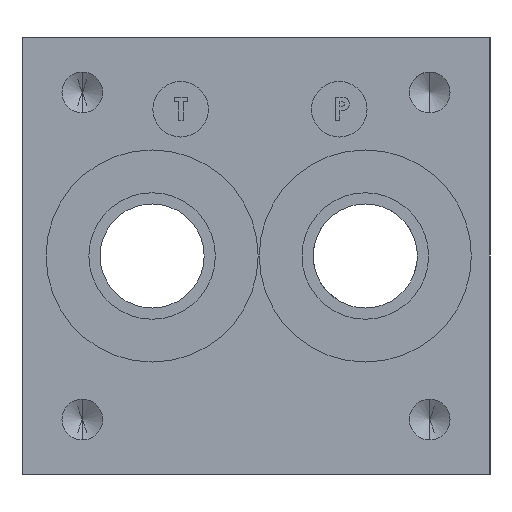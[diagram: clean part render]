
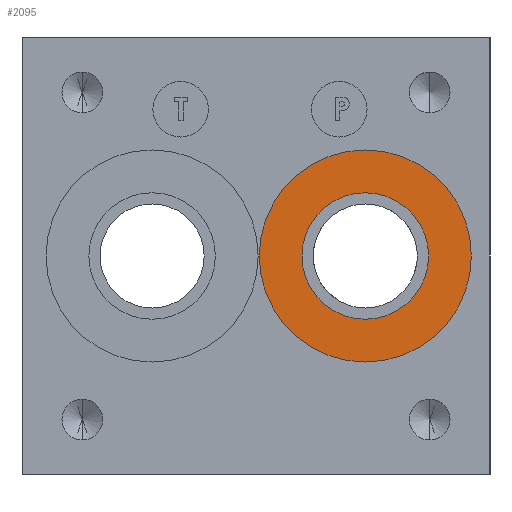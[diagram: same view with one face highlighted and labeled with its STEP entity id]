
A CAD part, left-side view. The second image highlights one B-rep face of the part: STEP entity #2095.
In plain terms, the highlighted planar face has unit normal (-1, 0, 0).
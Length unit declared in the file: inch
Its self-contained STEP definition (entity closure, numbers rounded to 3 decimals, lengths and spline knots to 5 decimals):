
#676 = ORIENTED_EDGE ( 'NONE', *, *, #7707, .F. ) ;
#788 = FACE_BOUND ( 'NONE', #7885, .T. ) ;
#1138 = CARTESIAN_POINT ( 'NONE',  ( 0.031, 0.786, 0.97615 ) ) ;
#1521 = ORIENTED_EDGE ( 'NONE', *, *, #9274, .F. ) ;
#1812 = FACE_OUTER_BOUND ( 'NONE', #15952, .T. ) ;
#2002 = VERTEX_POINT ( 'NONE', #3126 ) ;
#2095 = ADVANCED_FACE ( 'NONE', ( #788, #1812 ), #2514, .F. ) ;
#2452 = DIRECTION ( 'NONE',  ( 0., 0., -1. ) ) ;
#2461 = DIRECTION ( 'NONE',  ( 1., 0., 0. ) ) ;
#2514 = PLANE ( 'NONE',  #2647 ) ;
#2647 = AXIS2_PLACEMENT_3D ( 'NONE', #2696, #2461, #2452 ) ;
#2696 = CARTESIAN_POINT ( 'NONE',  ( 0.031, 0.786, 1.375 ) ) ;
#2848 = DIRECTION ( 'NONE',  ( 0., 0., 1. ) ) ;
#2871 = DIRECTION ( 'NONE',  ( -1., 0., 0. ) ) ;
#2898 = CARTESIAN_POINT ( 'NONE',  ( 0.031, 0.786, 1.375 ) ) ;
#2946 = DIRECTION ( 'NONE',  ( 0., 0., 1. ) ) ;
#3000 = ORIENTED_EDGE ( 'NONE', *, *, #7791, .T. ) ;
#3011 = DIRECTION ( 'NONE',  ( -1., 0., 0. ) ) ;
#3126 = CARTESIAN_POINT ( 'NONE',  ( 0.031, 0.786, 1.77385 ) ) ;
#3433 = CARTESIAN_POINT ( 'NONE',  ( 0.031, 0.786, 1.375 ) ) ;
#3762 = DIRECTION ( 'NONE',  ( 0., 0., 1. ) ) ;
#3783 = DIRECTION ( 'NONE',  ( -1., 0., 0. ) ) ;
#3860 = CARTESIAN_POINT ( 'NONE',  ( 0.031, 0.786, 1.375 ) ) ;
#4979 = ORIENTED_EDGE ( 'NONE', *, *, #9368, .T. ) ;
#5241 = CIRCLE ( 'NONE', #15350, 0.6684 ) ;
#7707 = EDGE_CURVE ( 'NONE', #2002, #18778, #17834, .T. ) ;
#7791 = EDGE_CURVE ( 'NONE', #12318, #18930, #16844, .T. ) ;
#7885 = EDGE_LOOP ( 'NONE', ( #676, #1521 ) ) ;
#9274 = EDGE_CURVE ( 'NONE', #18778, #2002, #19220, .T. ) ;
#9368 = EDGE_CURVE ( 'NONE', #18930, #12318, #5241, .T. ) ;
#11429 = CARTESIAN_POINT ( 'NONE',  ( 0.031, 0.786, 0.7066 ) ) ;
#12307 = DIRECTION ( 'NONE',  ( 0., 0., 1. ) ) ;
#12318 = VERTEX_POINT ( 'NONE', #18150 ) ;
#12372 = DIRECTION ( 'NONE',  ( -1., 0., 0. ) ) ;
#12514 = CARTESIAN_POINT ( 'NONE',  ( 0.031, 0.786, 1.375 ) ) ;
#15350 = AXIS2_PLACEMENT_3D ( 'NONE', #12514, #12372, #12307 ) ;
#15476 = AXIS2_PLACEMENT_3D ( 'NONE', #3433, #3011, #2946 ) ;
#15952 = EDGE_LOOP ( 'NONE', ( #3000, #4979 ) ) ;
#16844 = CIRCLE ( 'NONE', #17239, 0.6684 ) ;
#17239 = AXIS2_PLACEMENT_3D ( 'NONE', #2898, #2871, #2848 ) ;
#17329 = AXIS2_PLACEMENT_3D ( 'NONE', #3860, #3783, #3762 ) ;
#17834 = CIRCLE ( 'NONE', #17329, 0.39885 ) ;
#18150 = CARTESIAN_POINT ( 'NONE',  ( 0.031, 0.786, 2.0434 ) ) ;
#18778 = VERTEX_POINT ( 'NONE', #1138 ) ;
#18930 = VERTEX_POINT ( 'NONE', #11429 ) ;
#19220 = CIRCLE ( 'NONE', #15476, 0.39885 ) ;
